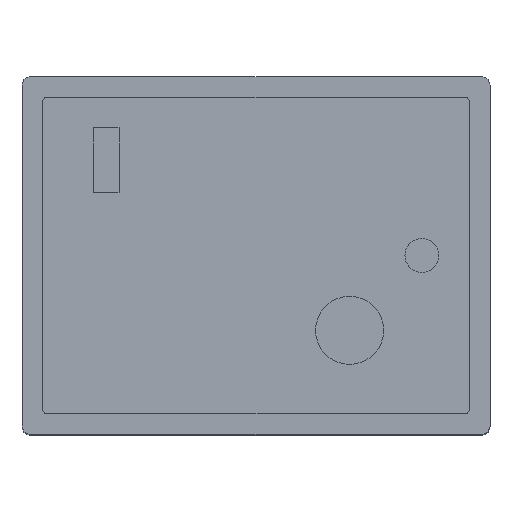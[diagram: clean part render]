
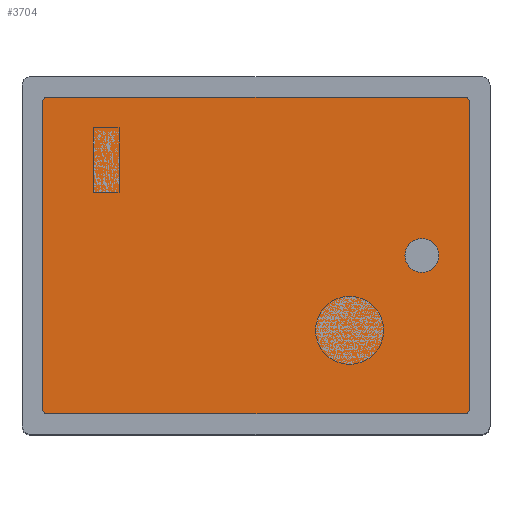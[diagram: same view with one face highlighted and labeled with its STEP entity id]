
A CAD part, top view. The second image highlights one B-rep face of the part: STEP entity #3704.
In plain terms, the highlighted planar face has unit normal (0, 0, 1).
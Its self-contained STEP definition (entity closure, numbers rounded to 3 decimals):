
#1918=FACE_BOUND('',#6327,.T.);
#1919=FACE_BOUND('',#6328,.T.);
#2826=CIRCLE('',#20417,1.);
#2827=CIRCLE('',#20418,0.3);
#2828=CIRCLE('',#20419,0.3);
#2829=CIRCLE('',#20420,0.3);
#2830=CIRCLE('',#20421,0.3);
#3704=ADVANCED_FACE('',(#1918,#1919),#4382,.T.);
#4382=PLANE('',#20422);
#6327=EDGE_LOOP('',(#10695));
#6328=EDGE_LOOP('',(#10696,#10697,#10698,#10699,#10700,#10701,#10702,#10703));
#10695=ORIENTED_EDGE('',*,*,#15396,.F.);
#10696=ORIENTED_EDGE('',*,*,#15388,.F.);
#10697=ORIENTED_EDGE('',*,*,#15397,.T.);
#10698=ORIENTED_EDGE('',*,*,#15390,.F.);
#10699=ORIENTED_EDGE('',*,*,#15398,.T.);
#10700=ORIENTED_EDGE('',*,*,#15393,.F.);
#10701=ORIENTED_EDGE('',*,*,#15399,.T.);
#10702=ORIENTED_EDGE('',*,*,#15384,.F.);
#10703=ORIENTED_EDGE('',*,*,#15400,.T.);
#13065=VERTEX_POINT('',#36624);
#13066=VERTEX_POINT('',#36625);
#13067=VERTEX_POINT('',#36630);
#13068=VERTEX_POINT('',#36632);
#13069=VERTEX_POINT('',#36636);
#13070=VERTEX_POINT('',#36637);
#13071=VERTEX_POINT('',#36642);
#13072=VERTEX_POINT('',#36643);
#13073=VERTEX_POINT('',#36648);
#15384=EDGE_CURVE('',#13065,#13066,#17219,.T.);
#15388=EDGE_CURVE('',#13067,#13068,#17223,.T.);
#15390=EDGE_CURVE('',#13069,#13070,#17225,.T.);
#15393=EDGE_CURVE('',#13071,#13072,#17228,.T.);
#15396=EDGE_CURVE('',#13073,#13073,#2826,.T.);
#15397=EDGE_CURVE('',#13067,#13070,#2827,.T.);
#15398=EDGE_CURVE('',#13069,#13072,#2828,.T.);
#15399=EDGE_CURVE('',#13071,#13066,#2829,.T.);
#15400=EDGE_CURVE('',#13065,#13068,#2830,.T.);
#17219=LINE('',#36623,#18992);
#17223=LINE('',#36631,#18996);
#17225=LINE('',#36635,#18998);
#17228=LINE('',#36641,#19001);
#18992=VECTOR('',#24657,1.);
#18996=VECTOR('',#24663,1.);
#18998=VECTOR('',#24667,1.);
#19001=VECTOR('',#24672,1.);
#20417=AXIS2_PLACEMENT_3D('',#36647,#24677,#24678);
#20418=AXIS2_PLACEMENT_3D('',#36649,#24679,#24680);
#20419=AXIS2_PLACEMENT_3D('',#36650,#24681,#24682);
#20420=AXIS2_PLACEMENT_3D('',#36651,#24683,#24684);
#20421=AXIS2_PLACEMENT_3D('',#36652,#24685,#24686);
#20422=AXIS2_PLACEMENT_3D('',#36653,#24687,#24688);
#24657=DIRECTION('',(0.,1.,0.));
#24663=DIRECTION('',(-1.,0.,0.));
#24667=DIRECTION('',(0.,-1.,0.));
#24672=DIRECTION('',(1.,0.,0.));
#24677=DIRECTION('',(0.,0.,1.));
#24678=DIRECTION('',(0.,1.,0.));
#24679=DIRECTION('',(0.,0.,1.));
#24680=DIRECTION('',(1.,0.,0.));
#24681=DIRECTION('',(0.,0.,1.));
#24682=DIRECTION('',(1.,0.,0.));
#24683=DIRECTION('',(0.,0.,1.));
#24684=DIRECTION('',(1.,0.,0.));
#24685=DIRECTION('',(0.,0.,1.));
#24686=DIRECTION('',(1.,0.,0.));
#24687=DIRECTION('',(0.,0.,1.));
#24688=DIRECTION('',(1.,0.,0.));
#36623=CARTESIAN_POINT('',(11.916,25.9,60.646));
#36624=CARTESIAN_POINT('',(11.916,1.1,60.646));
#36625=CARTESIAN_POINT('',(11.916,25.6,60.646));
#36630=CARTESIAN_POINT('',(30.216,0.8,60.646));
#36631=CARTESIAN_POINT('',(11.916,0.8,60.646));
#36632=CARTESIAN_POINT('',(12.216,0.8,60.646));
#36635=CARTESIAN_POINT('',(30.516,0.8,60.646));
#36636=CARTESIAN_POINT('',(30.516,25.6,60.646));
#36637=CARTESIAN_POINT('',(30.516,1.1,60.646));
#36641=CARTESIAN_POINT('',(30.516,25.9,60.646));
#36642=CARTESIAN_POINT('',(12.216,25.9,60.646));
#36643=CARTESIAN_POINT('',(30.216,25.9,60.646));
#36647=CARTESIAN_POINT('',(21.216,3.6,60.646));
#36648=CARTESIAN_POINT('',(21.216,4.6,60.646));
#36649=CARTESIAN_POINT('',(30.216,1.1,60.646));
#36650=CARTESIAN_POINT('',(30.216,25.6,60.646));
#36651=CARTESIAN_POINT('',(12.216,25.6,60.646));
#36652=CARTESIAN_POINT('',(12.216,1.1,60.646));
#36653=CARTESIAN_POINT('',(0.,0.,60.646));
